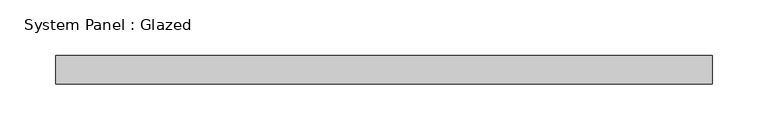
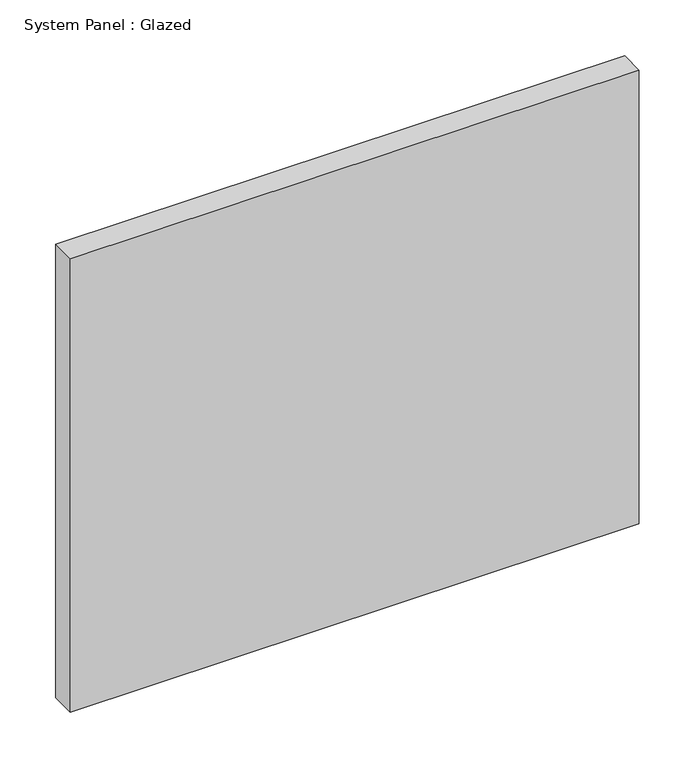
"""IFC4 building model written with IfcOpenShell, lengths in millimetres: plate geometry, System Panel : Glazed."""

from ifc_helpers import new_model, si_unit, origin, origin_with_axes, place, context, project, spatial, polyline, outline, extrude, source, transform, mapped, element, save


def system_panel_glazed_670b6ccd(model_context):
    return source(origin(), model_context, "Body", "SweptSolid", [
        extrude(outline(polyline([(293.9494187, -12.7), (-293.9494187, -12.7), (-293.9494187, 12.7), (293.9494187, 12.7), (293.9494187, -12.7)])), origin_with_axes(), (0.0, 0.0, 1.0), 495.3),
    ])


if __name__ == "__main__":
    model = new_model("IFC4")
    model_context = context("Model", 3, world=origin())
    ifc_project = project(units=[si_unit("LENGTHUNIT", "METRE", prefix="MILLI")], contexts=[model_context])
    site = spatial("IfcSite", under=ifc_project)
    building = spatial("IfcBuilding", under=site)
    placement = place(None, origin())
    system_panel_glazed_shape = system_panel_glazed_670b6ccd(model_context)
    element("IfcPlate", 1, ObjectType="System Panel : Glazed", at=placement, inside=building, context=model_context, shape_type="MappedRepresentation", body=[
        mapped(system_panel_glazed_shape, transform((0.0, 0.0, 0.0), x_axis=(1.0, 0.0, 0.0), y_axis=(0.0, 1.0, 0.0), z_axis=(0.0, 0.0, 1.0))),
    ])
    save(model, "model.ifc")
